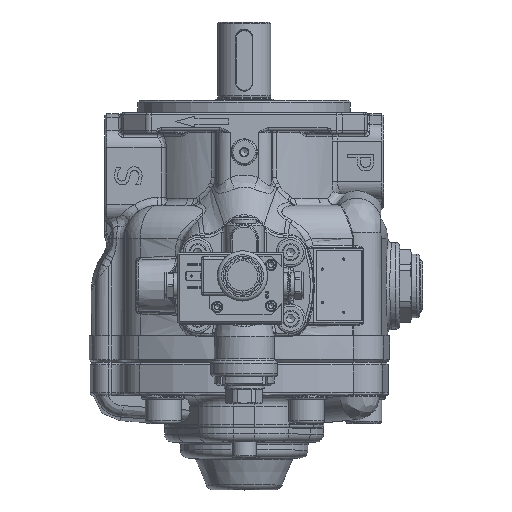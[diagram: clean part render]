
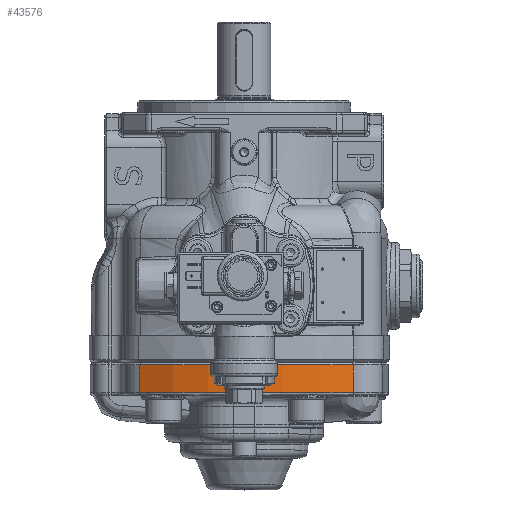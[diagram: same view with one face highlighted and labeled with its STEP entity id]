
A CAD part, top view. The second image highlights one B-rep face of the part: STEP entity #43576.
In plain terms, the highlighted cylindrical face has radius 161 mm (diameter 322 mm), a partial arc.
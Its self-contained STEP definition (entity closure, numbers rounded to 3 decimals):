
#4277=FACE_OUTER_BOUND('',#6855,.T.);
#6855=EDGE_LOOP('',(#35118,#35119,#35120,#35121));
#9284=CIRCLE('',#47347,161.);
#9356=CIRCLE('',#47449,161.);
#12817=LINE('',#84598,#15334);
#12836=LINE('',#85352,#15353);
#15334=VECTOR('',#56532,10.);
#15353=VECTOR('',#56861,10.);
#18785=VERTEX_POINT('',#84592);
#18787=VERTEX_POINT('',#84596);
#18799=VERTEX_POINT('',#84634);
#18871=VERTEX_POINT('',#85350);
#24341=EDGE_CURVE('',#18785,#18787,#12817,.T.);
#24392=EDGE_CURVE('',#18799,#18787,#9284,.T.);
#24482=EDGE_CURVE('',#18785,#18871,#9356,.T.);
#24483=EDGE_CURVE('',#18871,#18799,#12836,.T.);
#35118=ORIENTED_EDGE('',*,*,#24482,.F.);
#35119=ORIENTED_EDGE('',*,*,#24341,.T.);
#35120=ORIENTED_EDGE('',*,*,#24392,.F.);
#35121=ORIENTED_EDGE('',*,*,#24483,.F.);
#39193=CYLINDRICAL_SURFACE('',#47448,161.);
#43576=ADVANCED_FACE('',(#4277),#39193,.T.);
#47347=AXIS2_PLACEMENT_3D('',#84766,#56649,#56650);
#47448=AXIS2_PLACEMENT_3D('',#85349,#56857,#56858);
#47449=AXIS2_PLACEMENT_3D('',#85351,#56859,#56860);
#56532=DIRECTION('',(0.,-1.,0.));
#56649=DIRECTION('center_axis',(0.,-1.,0.));
#56650=DIRECTION('ref_axis',(-0.032,0.,0.999));
#56857=DIRECTION('center_axis',(0.,-1.,0.));
#56858=DIRECTION('ref_axis',(0.527,0.,-0.85));
#56859=DIRECTION('center_axis',(0.,1.,0.));
#56860=DIRECTION('ref_axis',(-0.527,0.,0.85));
#56861=DIRECTION('',(0.,-1.,0.));
#84592=CARTESIAN_POINT('',(-75.133,-98.812,84.937));
#84596=CARTESIAN_POINT('',(-75.133,-119.812,84.937));
#84598=CARTESIAN_POINT('',(-75.133,-96.812,84.937));
#84634=CARTESIAN_POINT('',(85.564,-119.812,90.06));
#84766=CARTESIAN_POINT('Origin',(9.661,-119.812,-51.925));
#85349=CARTESIAN_POINT('Origin',(9.661,-96.812,-51.925));
#85350=CARTESIAN_POINT('',(85.564,-98.812,90.06));
#85351=CARTESIAN_POINT('Origin',(9.661,-98.812,-51.925));
#85352=CARTESIAN_POINT('',(85.564,-96.812,90.06));
